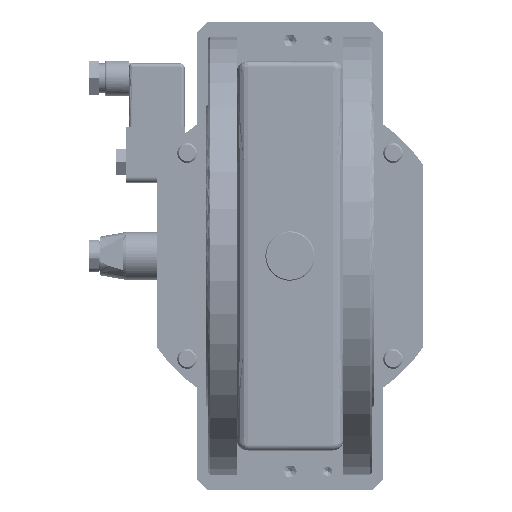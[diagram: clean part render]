
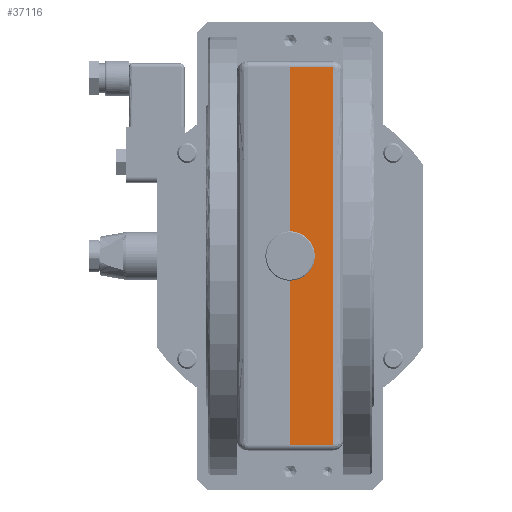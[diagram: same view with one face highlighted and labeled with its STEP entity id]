
A CAD part, left-side view. The second image highlights one B-rep face of the part: STEP entity #37116.
In plain terms, the highlighted free-form (B-spline) face has degree [1, 1] with [2, 2] control points.
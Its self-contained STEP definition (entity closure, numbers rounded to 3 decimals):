
#37081=CARTESIAN_POINT('F22',(0.,194.,0.0)
   );
#37082=CARTESIAN_POINT('F22',(0.0,3.,0.0));
#37083=CARTESIAN_POINT('F22',(0.,194.,27.0)
   );
#37084=CARTESIAN_POINT('F22',(0.0,3.,27.0));
#37085=B_SPLINE_SURFACE_WITH_KNOTS('F22',1,1,((#37081,#37083),(
   #37082,#37084)),.PLANE_SURF.,.F.,.F.,.U.,(2,2),(2,2),(0.0,
   7.074),(0.0,1.0),.UNSPECIFIED.);
#37086=CARTESIAN_POINT('V31',(0.0,3.,
   21.5));
#37087=VERTEX_POINT('V31',#37086);
#37088=CARTESIAN_POINT('V33',(0.,194.,
   21.5));
#37089=VERTEX_POINT('V33',#37088);
#37090=CARTESIAN_POINT('E51',(0.0,3.,
   21.5));
#37091=CARTESIAN_POINT('E51',(0.,194.,
   21.5));
#37092=B_SPLINE_CURVE_WITH_KNOTS('E51',1,(#37090,#37091),
   .POLYLINE_FORM.,.F.,.U.,(2,2),(2.0,24.108),
   .UNSPECIFIED.);
#37093=EDGE_CURVE('E51',#37087,#37089,#37092,.T.);
#37094=ORIENTED_EDGE('E51',*,*,#37093,.F.);
#37095=CARTESIAN_POINT('V2',(0.0,3.,0.0));
#37096=VERTEX_POINT('V2',#37095);
#37097=CARTESIAN_POINT('E59',(0.0,3.,0.0));
#37098=CARTESIAN_POINT('E59',(0.0,3.,
   21.5));
#37099=B_SPLINE_CURVE_WITH_KNOTS('E59',1,(#37097,#37098),
   .POLYLINE_FORM.,.F.,.U.,(2,2),(0.0,0.796),
   .UNSPECIFIED.);
#37100=EDGE_CURVE('E59',#37096,#37087,#37099,.T.);
#37101=ORIENTED_EDGE('E59',*,*,#37100,.F.);
#37102=CARTESIAN_POINT('V3',(0.,194.,0.0)
   );
#37103=VERTEX_POINT('V3',#37102);
#37104=CARTESIAN_POINT('E2',(0.0,3.,0.0));
#37105=CARTESIAN_POINT('E2',(0.,194.,0.0)
   );
#37106=QUASI_UNIFORM_CURVE('E2',1,(#37104,#37105),.POLYLINE_FORM.,
   .F.,.U.);
#37107=EDGE_CURVE('E2',#37096,#37103,#37106,.T.);
#37108=ORIENTED_EDGE('E2',*,*,#37107,.T.);
#37109=CARTESIAN_POINT('E60',(0.,194.,
   21.5));
#37110=CARTESIAN_POINT('E60',(0.,194.,0.0)
   );
#37111=B_SPLINE_CURVE_WITH_KNOTS('E60',1,(#37109,#37110),
   .POLYLINE_FORM.,.F.,.U.,(2,2),(0.204,1.0),
   .UNSPECIFIED.);
#37112=EDGE_CURVE('E60',#37089,#37103,#37111,.T.);
#37113=ORIENTED_EDGE('E60',*,*,#37112,.F.);
#37114=EDGE_LOOP('F22',(#37094,#37101,#37108,#37113));
#37115=FACE_OUTER_BOUND('F22',#37114,.F.);
#37116=ADVANCED_FACE('F22',(#37115),#37085,.T.);
